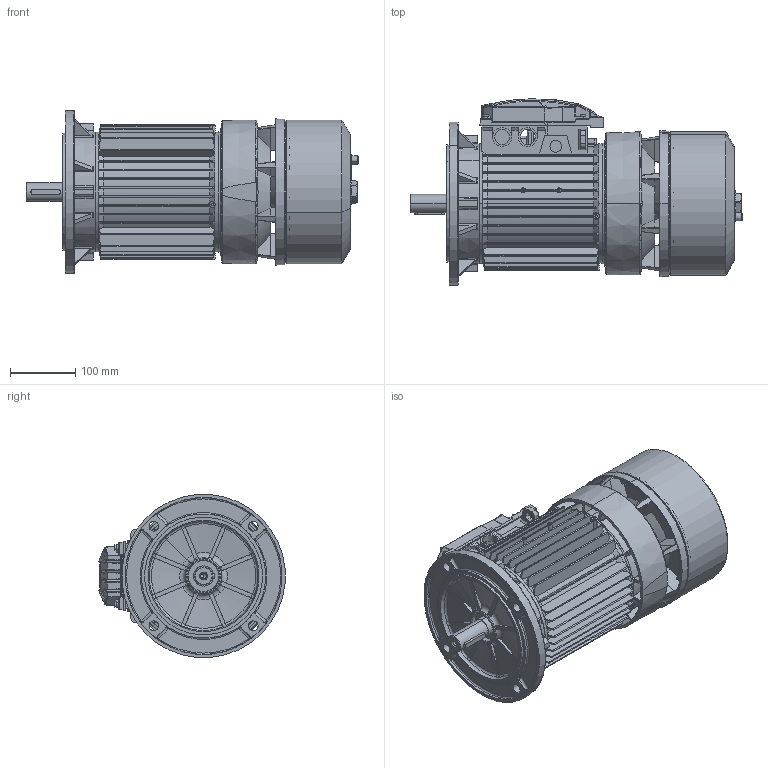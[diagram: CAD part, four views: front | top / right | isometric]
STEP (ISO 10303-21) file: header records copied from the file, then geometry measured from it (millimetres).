
FILE_DESCRIPTION (( 'STEP AP214' ), '1' );
FILE_NAME ('M02HB0015.STEP', '2022-01-17T14:43:50', ( '' ), ( '' ), 'SwSTEP 2.0', 'SolidWorks 2018', '' );
FILE_SCHEMA (( 'AUTOMOTIVE_DESIGN' ));
Length unit declared in the file: millimetre
Products named in the file (13): Coperchio 100-112 DI; Scudo a flangia B5 Fi 250 BA-BM 112; Chiavetta 100-112; Cuffia serie BA 112; Convogliatore con pista di attrito P2 BA 112-6; Scudo Lato Freno BA 112 P1 - DFAE0094; Albero BA 112; Carcassa 112 B5 - DI; M02HB0015; Vite a Testa Esagona con foro e tappo 71-112 - Modificata; Assieme coperchio scatola DI 100-112; Vite  a testa bombata M4x16; Guarnizione Coperchio scatola 100-112 DI
Assembly tree (15 placements, depth 3):
  M02HB0015
    Carcassa 112 B5 - DI
    Albero BA 112
    Scudo Lato Freno BA 112 P1 - DFAE0094
    Convogliatore con pista di attrito P2 BA 112-6
    Cuffia serie BA 112
    Chiavetta 100-112
    Scudo a flangia B5 Fi 250 BA-BM 112
    Assieme coperchio scatola DI 100-112
      Coperchio 100-112 DI
      Guarnizione Coperchio scatola 100-112 DI
      Vite  a testa bombata M4x16  x4
    Vite a Testa Esagona con foro e tappo 71-112 - Modificata
Bounding box: 507.68 x 284.47 x 249.05 mm (x, y, z)
Volume: 2705105.9 mm3; surface area: 1372754 mm2
Topology: 14 solids, 14 shells, 3665 faces, 9830 edges, 6190 vertices
Faces by surface type: plane 1345, cylinder 760, bspline 645, cone 496, torus 389, sphere 30
Entity records: 164998 total; most frequent: CARTESIAN_POINT 68687, ORIENTED_EDGE 18632, DIRECTION 14512, EDGE_CURVE 9316, VERTEX_POINT 5956, AXIS2_PLACEMENT_3D 5313, VECTOR 3886, LINE 3886
